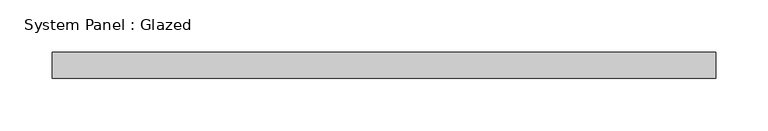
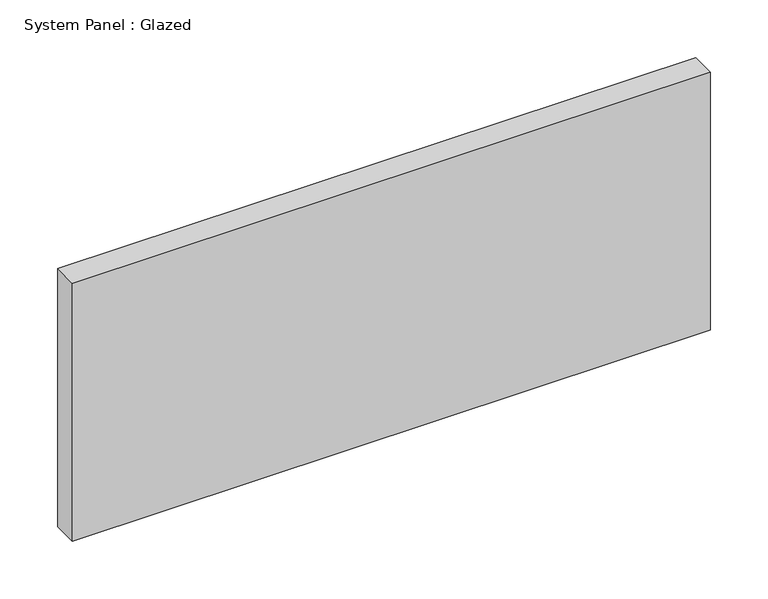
"""IFC4 building model written with IfcOpenShell, lengths in millimetres: plate geometry, System Panel : Glazed."""

from ifc_helpers import new_model, si_unit, origin, origin_with_axes, place, context, project, spatial, polyline, outline, extrude, source, transform, mapped, element, save


def system_panel_glazed_61270000(model_context):
    return source(origin(), model_context, "Body", "SweptSolid", [
        extrude(outline(polyline([(319.0875, 19.05), (-319.0875, 19.05), (-319.0875, 44.45), (319.0875, 44.45), (319.0875, 19.05)])), origin_with_axes(), (0.0, 0.0, 1.0), 273.05),
    ])


if __name__ == "__main__":
    model = new_model("IFC4")
    model_context = context("Model", 3, world=origin())
    ifc_project = project(units=[si_unit("LENGTHUNIT", "METRE", prefix="MILLI")], contexts=[model_context])
    site = spatial("IfcSite", under=ifc_project)
    building = spatial("IfcBuilding", under=site)
    placement = place(None, origin())
    system_panel_glazed_shape = system_panel_glazed_61270000(model_context)
    element("IfcPlate", 1, ObjectType="System Panel : Glazed", at=placement, inside=building, context=model_context, shape_type="MappedRepresentation", body=[
        mapped(system_panel_glazed_shape, transform((0.0, 0.0, 0.0), x_axis=(1.0, 0.0, 0.0), y_axis=(0.0, 1.0, 0.0), z_axis=(0.0, 0.0, 1.0))),
    ])
    save(model, "model.ifc")
